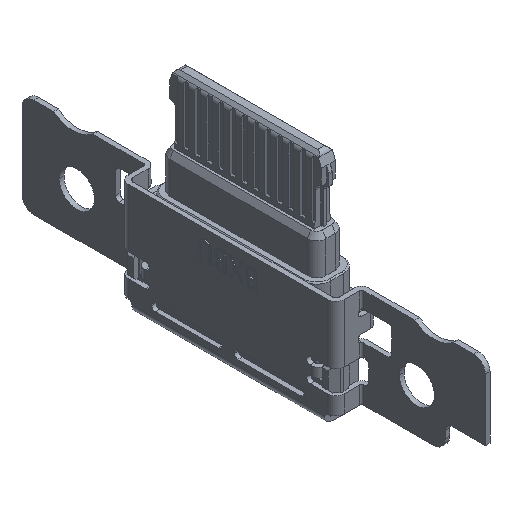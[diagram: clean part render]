
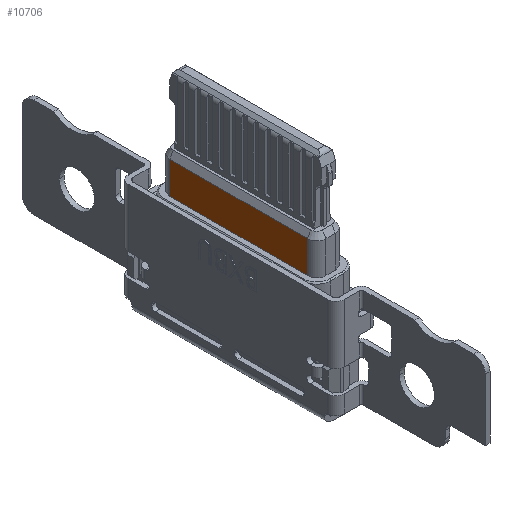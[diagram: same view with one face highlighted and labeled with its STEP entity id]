
A CAD part, isometric view. The second image highlights one B-rep face of the part: STEP entity #10706.
In plain terms, the highlighted planar face has unit normal (-1, 0, 0).
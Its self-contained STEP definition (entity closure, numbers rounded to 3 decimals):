
#801 = LINE ( 'NONE', #24739, #12995 ) ;
#2413 = LINE ( 'NONE', #11970, #14533 ) ;
#2705 = ORIENTED_EDGE ( 'NONE', *, *, #25113, .T. ) ;
#2743 = CARTESIAN_POINT ( 'NONE',  ( 0.3, -23.255, -9.15 ) ) ;
#5345 = DIRECTION ( 'NONE',  ( 0., 0., 1. ) ) ;
#5446 = ORIENTED_EDGE ( 'NONE', *, *, #12017, .F. ) ;
#9194 = CARTESIAN_POINT ( 'NONE',  ( 0.3, -23.255, -7.78 ) ) ;
#10582 = DIRECTION ( 'NONE',  ( 0., 1., 0. ) ) ;
#10605 = FACE_OUTER_BOUND ( 'NONE', #30602, .T. ) ;
#10706 = ADVANCED_FACE ( 'NONE', ( #10605 ), #12792, .T. ) ;
#11320 = VECTOR ( 'NONE', #30569, 1000. ) ;
#11748 = VERTEX_POINT ( 'NONE', #9194 ) ;
#11970 = CARTESIAN_POINT ( 'NONE',  ( 0.3, -23.255, -7.78 ) ) ;
#12017 = EDGE_CURVE ( 'NONE', #20756, #27177, #27462, .T. ) ;
#12792 = PLANE ( 'NONE',  #21529 ) ;
#12947 = DIRECTION ( 'NONE',  ( -1., 0., 0. ) ) ;
#12995 = VECTOR ( 'NONE', #5345, 1000. ) ;
#13363 = EDGE_CURVE ( 'NONE', #11748, #27177, #2413, .T. ) ;
#14533 = VECTOR ( 'NONE', #19027, 1000. ) ;
#14946 = CARTESIAN_POINT ( 'NONE',  ( 0.3, -29.145, -9.15 ) ) ;
#15094 = CARTESIAN_POINT ( 'NONE',  ( 0.3, -29.145, -7.78 ) ) ;
#15273 = CARTESIAN_POINT ( 'NONE',  ( 0.3, -22.855, -9.15 ) ) ;
#16360 = CARTESIAN_POINT ( 'NONE',  ( 0.3, -29.145, -7.78 ) ) ;
#19027 = DIRECTION ( 'NONE',  ( 0., 0., -1. ) ) ;
#19406 = VERTEX_POINT ( 'NONE', #15094 ) ;
#19479 = ORIENTED_EDGE ( 'NONE', *, *, #13363, .T. ) ;
#19926 = EDGE_CURVE ( 'NONE', #20756, #19406, #801, .T. ) ;
#20756 = VERTEX_POINT ( 'NONE', #14946 ) ;
#21049 = LINE ( 'NONE', #16360, #11320 ) ;
#21529 = AXIS2_PLACEMENT_3D ( 'NONE', #23370, #12947, #23215 ) ;
#23215 = DIRECTION ( 'NONE',  ( 0., 0., 1. ) ) ;
#23370 = CARTESIAN_POINT ( 'NONE',  ( 0.3, -22.855, -9.35 ) ) ;
#23609 = VECTOR ( 'NONE', #10582, 1000. ) ;
#24739 = CARTESIAN_POINT ( 'NONE',  ( 0.3, -29.145, -9.3 ) ) ;
#25113 = EDGE_CURVE ( 'NONE', #19406, #11748, #21049, .T. ) ;
#27177 = VERTEX_POINT ( 'NONE', #2743 ) ;
#27462 = LINE ( 'NONE', #15273, #23609 ) ;
#27891 = ORIENTED_EDGE ( 'NONE', *, *, #19926, .T. ) ;
#30569 = DIRECTION ( 'NONE',  ( 0., 1., 0. ) ) ;
#30602 = EDGE_LOOP ( 'NONE', ( #5446, #27891, #2705, #19479 ) ) ;
